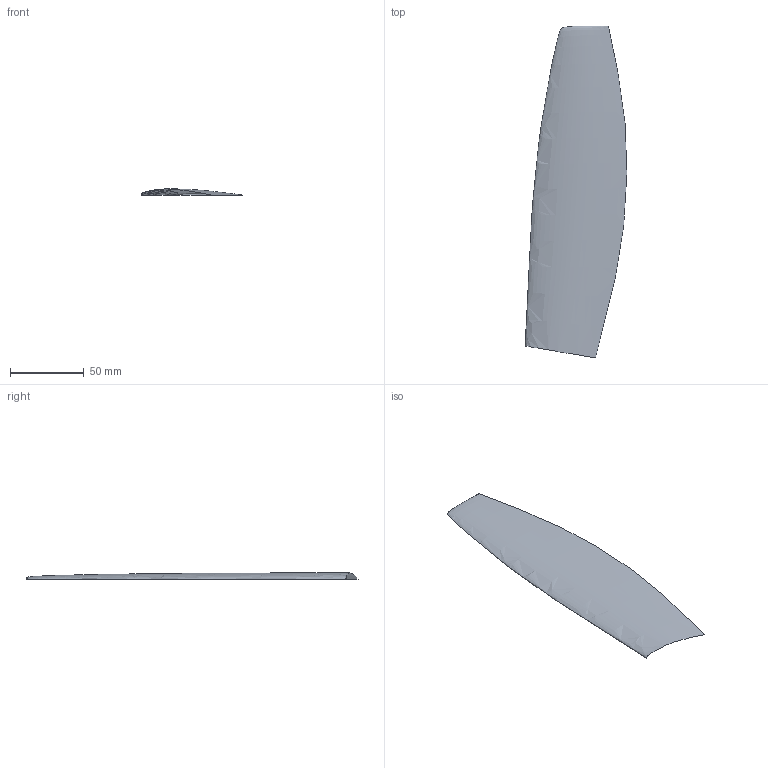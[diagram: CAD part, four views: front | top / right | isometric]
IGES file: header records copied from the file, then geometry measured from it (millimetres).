
Start section: This file was written from GridTool (For more information see ht tp://geolab.larc.nasa.gov/GridTool) or contact GridTool author: Jamshid Samareh (j.a.samareh@larc.nasa.gov)
Global section: file name: /usr2/people/rosen/nets_pact/mx12/rudr.igs; native system: Jamshid_system(j.a.samareh@larc.nasa.gov); preprocessor: V.0.0.0.0.0; author: Jamshid_Samareh; organization: CSC; date: 970923.202538; units: inch
Bounding box: 69.09 x 225.66 x 4.2 mm (x, y, z)
Surface area: 12467.6 mm2 (no closed solid volume)
Topology: 0 solids, 0 shells, 1 faces, 4 edges, 4 vertices
Faces by surface type: bspline 1
